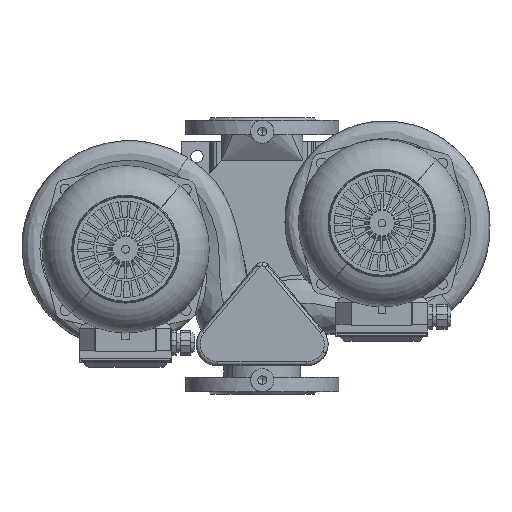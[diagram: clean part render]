
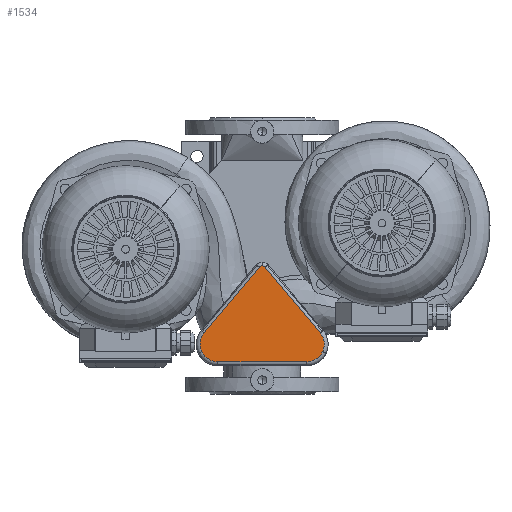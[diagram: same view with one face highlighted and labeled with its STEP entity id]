
A CAD part, top view. The second image highlights one B-rep face of the part: STEP entity #1534.
In plain terms, the highlighted planar face has unit normal (0, 0, 1).
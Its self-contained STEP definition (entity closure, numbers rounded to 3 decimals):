
#1534=ADVANCED_FACE('',(#3250),#3251,.T.);
#3250=FACE_OUTER_BOUND('',#6928,.T.);
#3251=PLANE('',#6929);
#6928=EDGE_LOOP('',(#15819,#15820,#15821,#15822,#15823,#15824,#15825,#15826,#15827));
#6929=AXIS2_PLACEMENT_3D('',#15828,#15829,#15830);
#15819=ORIENTED_EDGE('',*,*,#22472,.F.);
#15820=ORIENTED_EDGE('',*,*,#22466,.F.);
#15821=ORIENTED_EDGE('',*,*,#22480,.F.);
#15822=ORIENTED_EDGE('',*,*,#22462,.F.);
#15823=ORIENTED_EDGE('',*,*,#22456,.F.);
#15824=ORIENTED_EDGE('',*,*,#22486,.F.);
#15825=ORIENTED_EDGE('',*,*,#22452,.F.);
#15826=ORIENTED_EDGE('',*,*,#22446,.F.);
#15827=ORIENTED_EDGE('',*,*,#22491,.F.);
#15828=CARTESIAN_POINT('',(-57.895,143.0,50.0));
#15829=DIRECTION('',(0.0,0.0,1.0));
#15830=DIRECTION('',(1.0,0.0,0.0));
#22446=EDGE_CURVE('',#35899,#35902,#35903,.T.);
#22452=EDGE_CURVE('',#35902,#35912,#35913,.T.);
#22456=EDGE_CURVE('',#35916,#35919,#35920,.T.);
#22462=EDGE_CURVE('',#35919,#35929,#35930,.T.);
#22466=EDGE_CURVE('',#35933,#35936,#35937,.T.);
#22472=EDGE_CURVE('',#35936,#35946,#35947,.T.);
#22480=EDGE_CURVE('',#35929,#35933,#35957,.T.);
#22486=EDGE_CURVE('',#35912,#35916,#35964,.T.);
#22491=EDGE_CURVE('',#35946,#35899,#35969,.T.);
#35899=VERTEX_POINT('',#41668);
#35902=VERTEX_POINT('',#41671);
#35903=CIRCLE('',#41672,23.0);
#35912=VERTEX_POINT('',#41682);
#35913=LINE('',#41683,#41684);
#35916=VERTEX_POINT('',#41687);
#35919=VERTEX_POINT('',#41690);
#35920=CIRCLE('',#41691,5.0);
#35929=VERTEX_POINT('',#41701);
#35930=LINE('',#41702,#41703);
#35933=VERTEX_POINT('',#41706);
#35936=VERTEX_POINT('',#41709);
#35937=CIRCLE('',#41710,23.0);
#35946=VERTEX_POINT('',#41720);
#35947=LINE('',#41721,#41722);
#35957=CIRCLE('',#41733,23.0);
#35964=CIRCLE('',#41741,5.0);
#35969=CIRCLE('',#41747,23.0);
#41668=CARTESIAN_POINT('',(78.74,124.72,50.0));
#41671=CARTESIAN_POINT('',(75.514,100.216,50.0));
#41672=AXIS2_PLACEMENT_3D('',#51532,#51533,#51534);
#41682=CARTESIAN_POINT('',(3.83,14.786,50.0));
#41683=CARTESIAN_POINT('',(58.487,79.924,50.0));
#41684=VECTOR('',#51545,1.);
#41687=CARTESIAN_POINT('',(0.,13.0,50.0));
#41690=CARTESIAN_POINT('',(-3.83,14.786,50.0));
#41691=AXIS2_PLACEMENT_3D('',#51552,#51553,#51554);
#41701=CARTESIAN_POINT('',(-75.514,100.216,50.0));
#41702=CARTESIAN_POINT('',(-46.566,65.717,50.0));
#41703=VECTOR('',#51565,1.0);
#41706=CARTESIAN_POINT('',(-78.74,124.72,50.0));
#41709=CARTESIAN_POINT('',(-57.895,138.0,50.0));
#41710=AXIS2_PLACEMENT_3D('',#51572,#51573,#51574);
#41720=CARTESIAN_POINT('',(57.895,138.0,50.0));
#41721=CARTESIAN_POINT('',(-57.895,138.0,50.0));
#41722=VECTOR('',#51585,1.0);
#41733=AXIS2_PLACEMENT_3D('',#51599,#51600,#51601);
#41741=AXIS2_PLACEMENT_3D('',#51609,#51610,#51611);
#41747=AXIS2_PLACEMENT_3D('',#51616,#51617,#51618);
#51532=CARTESIAN_POINT('',(57.895,115.0,50.0));
#51533=DIRECTION('',(0.0,0.0,-1.0));
#51534=DIRECTION('',(0.906,0.423,0.0));
#51545=DIRECTION('',(-0.643,-0.766,0.0));
#51552=CARTESIAN_POINT('',(0.0,18.0,50.0));
#51553=DIRECTION('',(0.0,0.0,-1.0));
#51554=DIRECTION('',(0.,-1.0,0.0));
#51565=DIRECTION('',(-0.643,0.766,0.0));
#51572=CARTESIAN_POINT('',(-57.895,115.0,50.0));
#51573=DIRECTION('',(0.0,0.0,-1.0));
#51574=DIRECTION('',(-0.906,0.423,0.0));
#51585=DIRECTION('',(1.0,0.0,0.0));
#51599=CARTESIAN_POINT('',(-57.895,115.0,50.0));
#51600=DIRECTION('',(0.0,0.0,-1.0));
#51601=DIRECTION('',(-0.906,0.423,0.0));
#51609=CARTESIAN_POINT('',(0.0,18.0,50.0));
#51610=DIRECTION('',(0.0,0.0,-1.0));
#51611=DIRECTION('',(0.,-1.0,0.0));
#51616=CARTESIAN_POINT('',(57.895,115.0,50.0));
#51617=DIRECTION('',(0.0,0.0,-1.0));
#51618=DIRECTION('',(0.906,0.423,0.0));
